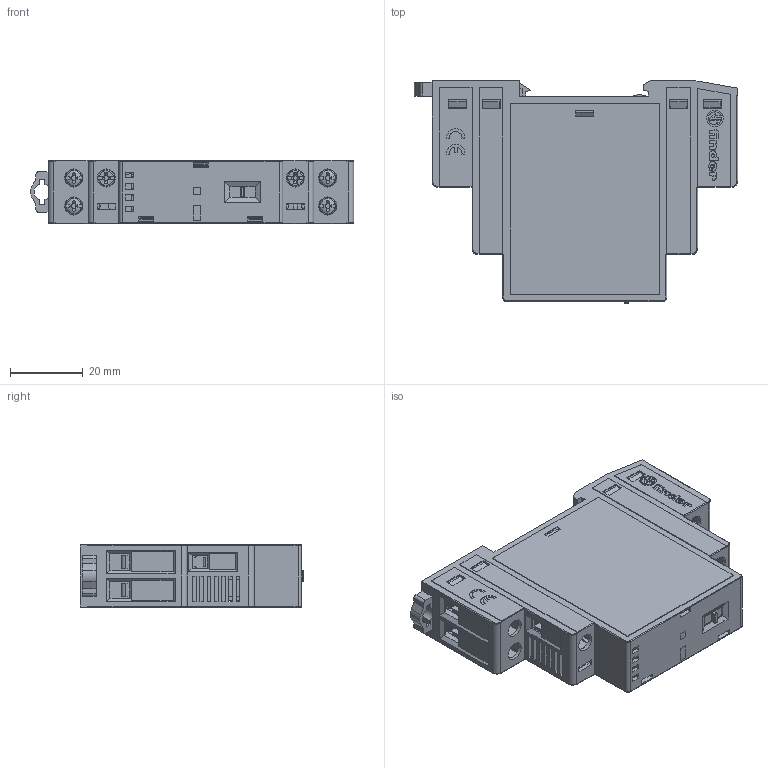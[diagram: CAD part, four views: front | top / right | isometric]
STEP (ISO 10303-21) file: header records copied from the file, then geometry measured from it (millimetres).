
FILE_DESCRIPTION(/* description */ ('Unknown'),/* implementation_level */ '2;1');
FILE_NAME(/* name */ '2232_1NO+1NC',/* time_stamp */ '2025-02-13T16:23:49+01:00',/* author */ ('Unknown'),/* organization */ ('Unknown'),/* preprocessor_version */ 'ST-DEVELOPER v18.102',/* originating_system */ 'Solid Edge',/* authorisation */ 'Unknown');
FILE_SCHEMA (('AUTOMOTIVE_DESIGN {1 0 10303 214 3 1 1}'));
Products named in the file (1): 2232_1NO+1NC
Bounding box: 88.85 x 61.3 x 17.5 mm (x, y, z)
Volume: 25962.4 mm3; surface area: 46327.8 mm2
Topology: 4 solids, 13 shells, 3620 faces, 10476 edges, 6795 vertices
Faces by surface type: plane 2991, cylinder 464, cone 60, bspline 56, torus 37, sphere 12
Full cylindrical faces by diameter (mm): 0.252 x1, 0.374 x2, 0.429 x5, 1.2 x2, 1.4 x2, 1.5 x17, 1.7 x2, 1.8 x1, 2 x3, 2.3 x2, 2.4 x2, 2.459 x2, 2.5 x4, 2.7 x4, 2.85 x4, 3 x4, 3.5 x4, 3.6 x2, 3.601 x2, 4.2 x4, 4.201 x4, 4.566 x2, 4.6 x2, 5 x7, 6 x1
Entity records: 144535 total; most frequent: CARTESIAN_POINT 25254, ORIENTED_EDGE 20570, DIRECTION 17943, EDGE_CURVE 10285, LINE 8545, VECTOR 8545, VERTEX_POINT 6739, AXIS2_PLACEMENT_3D 4699
